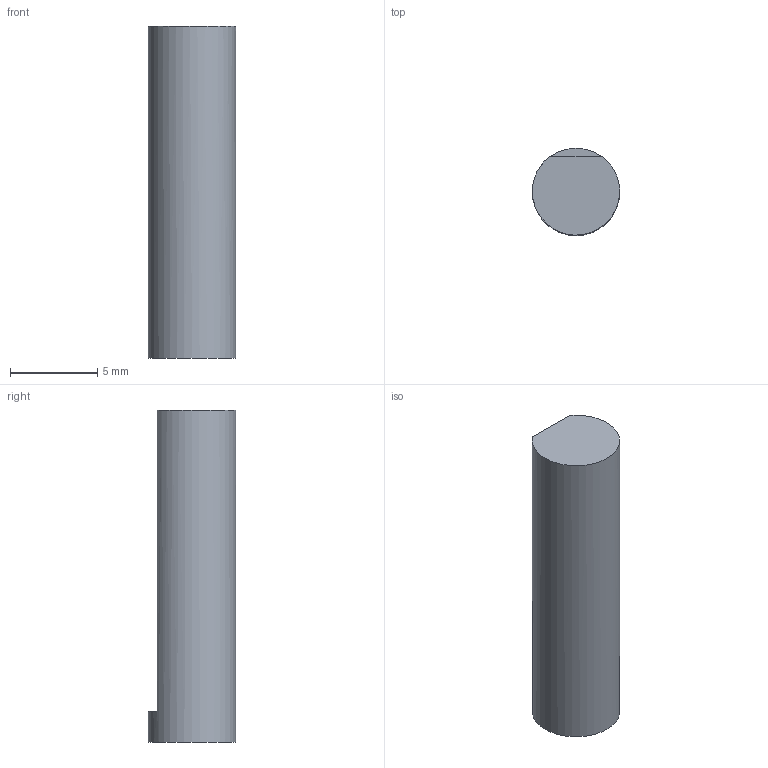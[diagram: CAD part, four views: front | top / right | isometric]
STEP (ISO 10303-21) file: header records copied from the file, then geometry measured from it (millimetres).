
FILE_DESCRIPTION(/* description */ (''),/* implementation_level */ '2;1');
FILE_NAME(/* name */ 'wal silnika.step',/* time_stamp */ '2026-02-28T20:12:34+01:00',/* author */ (''),/* organization */ (''),/* preprocessor_version */ 'ST-DEVELOPER v20.1',/* originating_system */ 'Autodesk Translation Framework v14.24.0.0',/* authorisation */ '');
FILE_SCHEMA (('AUTOMOTIVE_DESIGN { 1 0 10303 214 3 1 1 }'));
Length unit declared in the file: millimetre
Products named in the file (1): wal silnika
Bounding box: 5 x 5 x 19 mm (x, y, z)
Volume: 355.4 mm3; surface area: 334 mm2
Topology: 1 solids, 1 shells, 5 faces, 9 edges, 6 vertices
Faces by surface type: plane 4, cylinder 1
Full cylindrical faces by diameter (mm): 5 x1
Entity records: 160 total; most frequent: DIRECTION 25, CARTESIAN_POINT 21, ORIENTED_EDGE 18, AXIS2_PLACEMENT_3D 10, EDGE_CURVE 9, VERTEX_POINT 6, FACE_OUTER_BOUND 5, EDGE_LOOP 5
